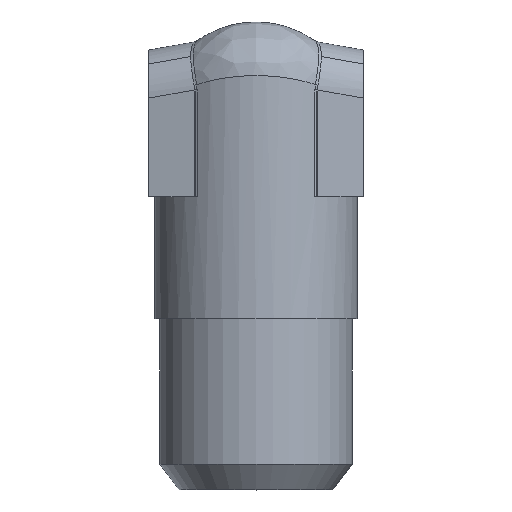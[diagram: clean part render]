
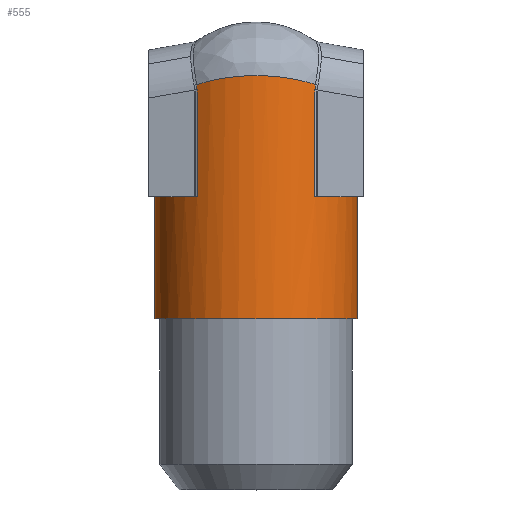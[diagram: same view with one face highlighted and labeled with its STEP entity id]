
A CAD part, top view. The second image highlights one B-rep face of the part: STEP entity #555.
In plain terms, the highlighted cylindrical face has radius 4.15 mm (diameter 8.3 mm), a partial arc.
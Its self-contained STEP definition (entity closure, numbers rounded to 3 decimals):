
#450=CARTESIAN_POINT('',(0.0,0.0,0.0));
#451=DIRECTION('',(0.0,1.0,0.0));
#452=DIRECTION('',(-1.0,0.0,0.0));
#453=AXIS2_PLACEMENT_3D('',#450,#451,#452);
#454=CYLINDRICAL_SURFACE('',#453,4.15);
#455=CARTESIAN_POINT('',(-4.15,-8.0,0.));
#456=VERTEX_POINT('',#455);
#457=CARTESIAN_POINT('',(-4.15,-3.0,0.));
#458=VERTEX_POINT('',#457);
#459=CARTESIAN_POINT('',(-4.15,-8.0,0.));
#460=DIRECTION('',(0.0,1.0,0.0));
#461=VECTOR('',#460,5.0);
#462=LINE('',#459,#461);
#463=EDGE_CURVE('',#456,#458,#462,.T.);
#464=ORIENTED_EDGE('',*,*,#463,.F.);
#465=CARTESIAN_POINT('',(4.15,-8.,0.0));
#466=VERTEX_POINT('',#465);
#467=CARTESIAN_POINT('',(0.0,-8.,0.0));
#468=DIRECTION('',(0.0,1.0,0.0));
#469=DIRECTION('',(-1.0,0.0,0.0));
#470=AXIS2_PLACEMENT_3D('',#467,#468,#469);
#471=CIRCLE('',#470,4.15);
#472=EDGE_CURVE('',#456,#466,#471,.T.);
#473=ORIENTED_EDGE('',*,*,#472,.T.);
#474=CARTESIAN_POINT('',(4.15,-3.0,0.));
#475=VERTEX_POINT('',#474);
#476=CARTESIAN_POINT('',(4.15,-3.0,0.));
#477=DIRECTION('',(0.0,-1.0,0.0));
#478=VECTOR('',#477,5.);
#479=LINE('',#476,#478);
#480=EDGE_CURVE('',#475,#466,#479,.T.);
#481=ORIENTED_EDGE('',*,*,#480,.F.);
#482=CARTESIAN_POINT('',(2.415,-3.0,3.375));
#483=VERTEX_POINT('',#482);
#484=CARTESIAN_POINT('',(0.0,-3.0,0.0));
#485=DIRECTION('',(0.0,-1.0,0.0));
#486=DIRECTION('',(-1.0,0.0,0.0));
#487=AXIS2_PLACEMENT_3D('',#484,#485,#486);
#488=CIRCLE('',#487,4.15);
#489=EDGE_CURVE('',#475,#483,#488,.T.);
#490=ORIENTED_EDGE('',*,*,#489,.T.);
#491=CARTESIAN_POINT('',(2.415,1.362,3.375));
#492=VERTEX_POINT('',#491);
#493=CARTESIAN_POINT('',(2.415,1.362,3.375));
#494=DIRECTION('',(0.0,-1.0,0.0));
#495=VECTOR('',#494,4.362);
#496=LINE('',#493,#495);
#497=EDGE_CURVE('',#492,#483,#496,.T.);
#498=ORIENTED_EDGE('',*,*,#497,.F.);
#499=CARTESIAN_POINT('',(2.434,1.58,3.362));
#500=VERTEX_POINT('',#499);
#501=CARTESIAN_POINT('',(2.434,1.58,3.362));
#502=CARTESIAN_POINT('',(2.432,1.571,3.363));
#503=CARTESIAN_POINT('',(2.431,1.562,3.364));
#504=CARTESIAN_POINT('',(2.427,1.538,3.366));
#505=CARTESIAN_POINT('',(2.425,1.524,3.368));
#506=CARTESIAN_POINT('',(2.421,1.487,3.371));
#507=CARTESIAN_POINT('',(2.419,1.463,3.372));
#508=CARTESIAN_POINT('',(2.416,1.414,3.374));
#509=CARTESIAN_POINT('',(2.415,1.388,3.375));
#510=CARTESIAN_POINT('',(2.415,1.362,3.375));
#511=B_SPLINE_CURVE_WITH_KNOTS('',3,(#501,#502,#503,#504,#505,#506,#507,#508,#509,#510),.UNSPECIFIED.,.F.,.U.,(4,2,2,2,4),(0.,0.027,0.071,0.141,0.218),.UNSPECIFIED.);
#512=EDGE_CURVE('',#500,#492,#511,.T.);
#513=ORIENTED_EDGE('',*,*,#512,.F.);
#514=CARTESIAN_POINT('',(-2.434,1.58,3.362));
#515=VERTEX_POINT('',#514);
#516=CARTESIAN_POINT('',(0.0,0.0,0.0));
#517=DIRECTION('',(0.0,0.905,-0.425));
#518=DIRECTION('',(0.0,0.425,0.905));
#519=AXIS2_PLACEMENT_3D('',#516,#517,#518);
#520=ELLIPSE('',#519,4.585,4.15);
#521=EDGE_CURVE('',#515,#500,#520,.T.);
#522=ORIENTED_EDGE('',*,*,#521,.F.);
#523=CARTESIAN_POINT('',(-2.415,1.362,3.375));
#524=VERTEX_POINT('',#523);
#525=CARTESIAN_POINT('',(-2.434,1.58,3.362));
#526=CARTESIAN_POINT('',(-2.429,1.554,3.365));
#527=CARTESIAN_POINT('',(-2.426,1.529,3.367));
#528=CARTESIAN_POINT('',(-2.42,1.48,3.371));
#529=CARTESIAN_POINT('',(-2.418,1.457,3.373));
#530=CARTESIAN_POINT('',(-2.416,1.419,3.374));
#531=CARTESIAN_POINT('',(-2.416,1.404,3.374));
#532=CARTESIAN_POINT('',(-2.415,1.381,3.375));
#533=CARTESIAN_POINT('',(-2.415,1.371,3.375));
#534=CARTESIAN_POINT('',(-2.415,1.362,3.375));
#535=B_SPLINE_CURVE_WITH_KNOTS('',3,(#525,#526,#527,#528,#529,#530,#531,#532,#533,#534),.UNSPECIFIED.,.F.,.U.,(4,2,2,2,4),(0.0,0.078,0.148,0.191,0.219),.UNSPECIFIED.);
#536=EDGE_CURVE('',#524,#515,#535,.F.);
#537=ORIENTED_EDGE('',*,*,#536,.F.);
#538=CARTESIAN_POINT('',(-2.415,-3.0,3.375));
#539=VERTEX_POINT('',#538);
#540=CARTESIAN_POINT('',(-2.415,-3.0,3.375));
#541=DIRECTION('',(0.0,1.0,0.0));
#542=VECTOR('',#541,4.362);
#543=LINE('',#540,#542);
#544=EDGE_CURVE('',#539,#524,#543,.T.);
#545=ORIENTED_EDGE('',*,*,#544,.F.);
#546=CARTESIAN_POINT('',(0.0,-3.0,0.0));
#547=DIRECTION('',(0.0,-1.0,0.0));
#548=DIRECTION('',(-1.0,0.0,0.0));
#549=AXIS2_PLACEMENT_3D('',#546,#547,#548);
#550=CIRCLE('',#549,4.15);
#551=EDGE_CURVE('',#539,#458,#550,.T.);
#552=ORIENTED_EDGE('',*,*,#551,.T.);
#553=EDGE_LOOP('',(#464,#473,#481,#490,#498,#513,#522,#537,#545,#552));
#554=FACE_OUTER_BOUND('',#553,.T.);
#555=ADVANCED_FACE('',(#554),#454,.T.);
